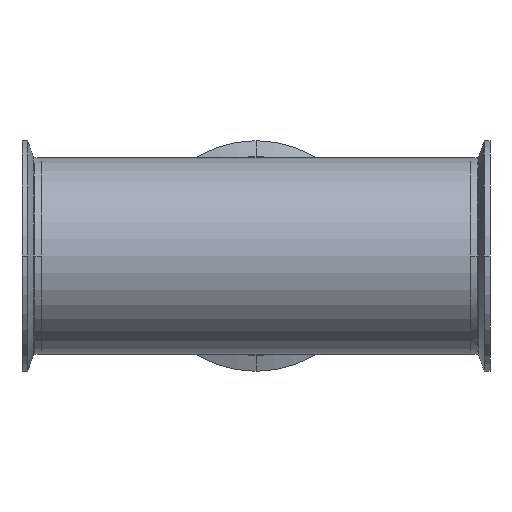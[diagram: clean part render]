
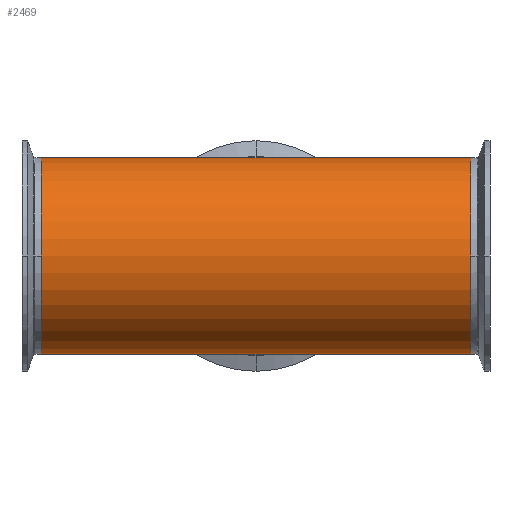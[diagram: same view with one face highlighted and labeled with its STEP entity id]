
A CAD part, front view. The second image highlights one B-rep face of the part: STEP entity #2469.
In plain terms, the highlighted cylindrical face has radius 50.8 mm (diameter 101.6 mm), a partial arc.
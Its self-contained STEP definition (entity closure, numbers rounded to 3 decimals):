
#5 = LINE ( 'NONE', #4388, #4861 ) ;
#71 = DIRECTION ( 'NONE',  ( 0., 0., 1. ) ) ;
#82 = ORIENTED_EDGE ( 'NONE', *, *, #3422, .F. ) ;
#139 = DIRECTION ( 'NONE',  ( -1., 0., 0. ) ) ;
#154 = LINE ( 'NONE', #3338, #5301 ) ;
#201 = CARTESIAN_POINT ( 'NONE',  ( -110.7, 0., 0. ) ) ;
#219 = DIRECTION ( 'NONE',  ( -1., 0., 0. ) ) ;
#235 = ORIENTED_EDGE ( 'NONE', *, *, #900, .T. ) ;
#365 = CARTESIAN_POINT ( 'NONE',  ( 254.384, 0., 0. ) ) ;
#539 = VERTEX_POINT ( 'NONE', #5443 ) ;
#583 = EDGE_CURVE ( 'NONE', #5917, #3930, #2968, .T. ) ;
#776 = EDGE_CURVE ( 'NONE', #539, #5297, #5, .T. ) ;
#793 = EDGE_CURVE ( 'NONE', #5297, #6079, #5006, .T. ) ;
#840 = AXIS2_PLACEMENT_3D ( 'NONE', #201, #4292, #71 ) ;
#868 = DIRECTION ( 'NONE',  ( -1., 0., 0. ) ) ;
#900 = EDGE_CURVE ( 'NONE', #3930, #539, #5990, .T. ) ;
#1049 = ORIENTED_EDGE ( 'NONE', *, *, #793, .T. ) ;
#1270 = LINE ( 'NONE', #4825, #6131 ) ;
#1442 = DIRECTION ( 'NONE',  ( -1., 0., 0. ) ) ;
#1453 = CARTESIAN_POINT ( 'NONE',  ( 110.7, 0., 50.8 ) ) ;
#1643 = CARTESIAN_POINT ( 'NONE',  ( 110.7, 0., -50.8 ) ) ;
#1766 = CARTESIAN_POINT ( 'NONE',  ( -110.7, 0., -50.8 ) ) ;
#1830 = CARTESIAN_POINT ( 'NONE',  ( 110.7, 0., 0. ) ) ;
#2202 = AXIS2_PLACEMENT_3D ( 'NONE', #365, #6035, #4115 ) ;
#2248 = VECTOR ( 'NONE', #219, 1000. ) ;
#2437 = CARTESIAN_POINT ( 'NONE',  ( 0., 0., -50.8 ) ) ;
#2459 = ORIENTED_EDGE ( 'NONE', *, *, #776, .T. ) ;
#2469 = ADVANCED_FACE ( 'NONE', ( #5753 ), #5600, .T. ) ;
#2538 = AXIS2_PLACEMENT_3D ( 'NONE', #1830, #868, #5101 ) ;
#2795 = EDGE_CURVE ( 'NONE', #3986, #6079, #1270, .T. ) ;
#2931 = CARTESIAN_POINT ( 'NONE',  ( 254.384, 0., 50.8 ) ) ;
#2968 = CIRCLE ( 'NONE', #2538, 50.8 ) ;
#3338 = CARTESIAN_POINT ( 'NONE',  ( 254.384, 0., -50.8 ) ) ;
#3422 = EDGE_CURVE ( 'NONE', #5917, #3986, #154, .T. ) ;
#3546 = ORIENTED_EDGE ( 'NONE', *, *, #2795, .F. ) ;
#3930 = VERTEX_POINT ( 'NONE', #1453 ) ;
#3981 = ORIENTED_EDGE ( 'NONE', *, *, #583, .T. ) ;
#3986 = VERTEX_POINT ( 'NONE', #2437 ) ;
#4115 = DIRECTION ( 'NONE',  ( 0., 0., 1. ) ) ;
#4292 = DIRECTION ( 'NONE',  ( 1., 0., 0. ) ) ;
#4388 = CARTESIAN_POINT ( 'NONE',  ( 254.384, 0., 50.8 ) ) ;
#4760 = DIRECTION ( 'NONE',  ( -1., 0., 0. ) ) ;
#4825 = CARTESIAN_POINT ( 'NONE',  ( 254.384, 0., -50.8 ) ) ;
#4861 = VECTOR ( 'NONE', #4760, 1000. ) ;
#5006 = CIRCLE ( 'NONE', #840, 50.8 ) ;
#5101 = DIRECTION ( 'NONE',  ( 0., 0., 1. ) ) ;
#5248 = EDGE_LOOP ( 'NONE', ( #82, #3981, #235, #2459, #1049, #3546 ) ) ;
#5297 = VERTEX_POINT ( 'NONE', #5669 ) ;
#5301 = VECTOR ( 'NONE', #1442, 1000. ) ;
#5443 = CARTESIAN_POINT ( 'NONE',  ( 0., 0., 50.8 ) ) ;
#5600 = CYLINDRICAL_SURFACE ( 'NONE', #2202, 50.8 ) ;
#5669 = CARTESIAN_POINT ( 'NONE',  ( -110.7, 0., 50.8 ) ) ;
#5753 = FACE_OUTER_BOUND ( 'NONE', #5248, .T. ) ;
#5917 = VERTEX_POINT ( 'NONE', #1643 ) ;
#5990 = LINE ( 'NONE', #2931, #2248 ) ;
#6035 = DIRECTION ( 'NONE',  ( -1., 0., 0. ) ) ;
#6079 = VERTEX_POINT ( 'NONE', #1766 ) ;
#6131 = VECTOR ( 'NONE', #139, 1000. ) ;
